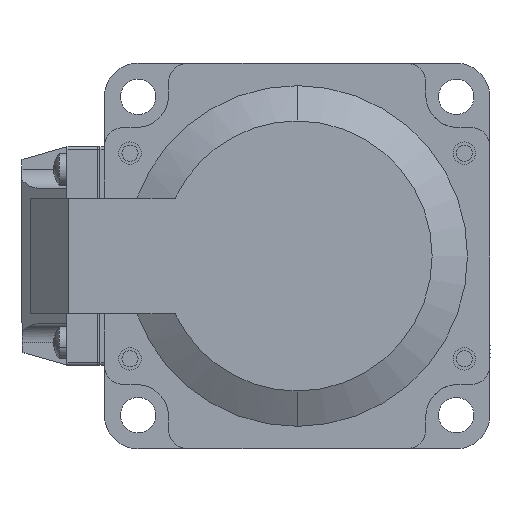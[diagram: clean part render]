
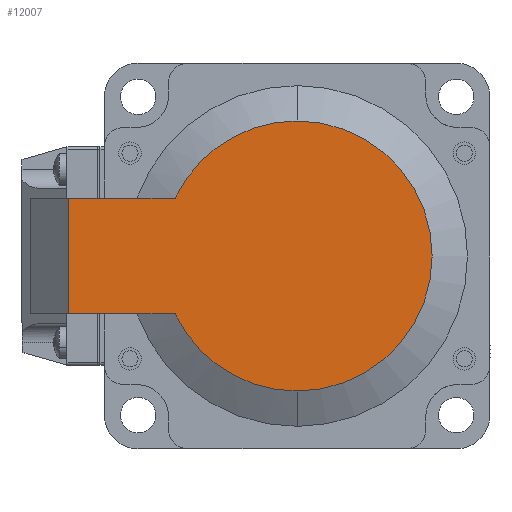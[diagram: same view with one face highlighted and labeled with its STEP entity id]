
A CAD part, front view. The second image highlights one B-rep face of the part: STEP entity #12007.
In plain terms, the highlighted planar face has unit normal (0, -1, 0).
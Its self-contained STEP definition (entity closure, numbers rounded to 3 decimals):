
#892 = VERTEX_POINT ( 'NONE', #18746 ) ;
#1022 = VERTEX_POINT ( 'NONE', #14315 ) ;
#1234 = ORIENTED_EDGE ( 'NONE', *, *, #11455, .F. ) ;
#1710 = LINE ( 'NONE', #2114, #11330 ) ;
#2114 = CARTESIAN_POINT ( 'NONE',  ( -35.583, -137., -9. ) ) ;
#2477 = EDGE_CURVE ( 'NONE', #892, #4592, #16687, .T. ) ;
#2687 = ORIENTED_EDGE ( 'NONE', *, *, #4685, .T. ) ;
#4592 = VERTEX_POINT ( 'NONE', #15537 ) ;
#4685 = EDGE_CURVE ( 'NONE', #7252, #5071, #5986, .T. ) ;
#4876 = CARTESIAN_POINT ( 'NONE',  ( 0., -137., 0. ) ) ;
#5001 = FACE_OUTER_BOUND ( 'NONE', #9481, .T. ) ;
#5071 = VERTEX_POINT ( 'NONE', #20434 ) ;
#5652 = VERTEX_POINT ( 'NONE', #15352 ) ;
#5986 = CIRCLE ( 'NONE', #8224, 21. ) ;
#6068 = EDGE_CURVE ( 'NONE', #5071, #892, #10578, .T. ) ;
#6071 = DIRECTION ( 'NONE',  ( 0., 0., -1. ) ) ;
#6366 = DIRECTION ( 'NONE',  ( 0., -1., 0. ) ) ;
#6771 = LINE ( 'NONE', #13056, #17166 ) ;
#6957 = DIRECTION ( 'NONE',  ( 0., 0., -1. ) ) ;
#7252 = VERTEX_POINT ( 'NONE', #9083 ) ;
#7384 = ORIENTED_EDGE ( 'NONE', *, *, #8680, .F. ) ;
#8000 = ORIENTED_EDGE ( 'NONE', *, *, #6068, .T. ) ;
#8224 = AXIS2_PLACEMENT_3D ( 'NONE', #9382, #16118, #6071 ) ;
#8233 = DIRECTION ( 'NONE',  ( 0., -1., 0. ) ) ;
#8269 = DIRECTION ( 'NONE',  ( 0., 0., -1. ) ) ;
#8680 = EDGE_CURVE ( 'NONE', #5652, #1022, #6771, .T. ) ;
#9083 = CARTESIAN_POINT ( 'NONE',  ( 0., -137., -21. ) ) ;
#9334 = CARTESIAN_POINT ( 'NONE',  ( -35.583, -137., 9. ) ) ;
#9382 = CARTESIAN_POINT ( 'NONE',  ( 0., -137., 0. ) ) ;
#9481 = EDGE_LOOP ( 'NONE', ( #7384, #10221, #2687, #8000, #18342, #1234 ) ) ;
#9769 = DIRECTION ( 'NONE',  ( -1., 0., 0. ) ) ;
#10221 = ORIENTED_EDGE ( 'NONE', *, *, #19170, .T. ) ;
#10449 = PLANE ( 'NONE',  #17486 ) ;
#10578 = CIRCLE ( 'NONE', #17017, 21. ) ;
#11330 = VECTOR ( 'NONE', #13545, 1000. ) ;
#11455 = EDGE_CURVE ( 'NONE', #1022, #4592, #1710, .T. ) ;
#12007 = ADVANCED_FACE ( 'NONE', ( #5001 ), #10449, .T. ) ;
#12295 = VECTOR ( 'NONE', #9769, 1000. ) ;
#13056 = CARTESIAN_POINT ( 'NONE',  ( -35.583, -137., -9. ) ) ;
#13545 = DIRECTION ( 'NONE',  ( 0., 0., 1. ) ) ;
#13760 = AXIS2_PLACEMENT_3D ( 'NONE', #16332, #6366, #8269 ) ;
#14315 = CARTESIAN_POINT ( 'NONE',  ( -35.583, -137., -9. ) ) ;
#15352 = CARTESIAN_POINT ( 'NONE',  ( -18.974, -137., -9. ) ) ;
#15537 = CARTESIAN_POINT ( 'NONE',  ( -35.583, -137., 9. ) ) ;
#16118 = DIRECTION ( 'NONE',  ( 0., -1., 0. ) ) ;
#16210 = DIRECTION ( 'NONE',  ( -1., 0., 0. ) ) ;
#16332 = CARTESIAN_POINT ( 'NONE',  ( 0., -137., 0. ) ) ;
#16370 = DIRECTION ( 'NONE',  ( 0., 0., -1. ) ) ;
#16687 = LINE ( 'NONE', #9334, #12295 ) ;
#17017 = AXIS2_PLACEMENT_3D ( 'NONE', #4876, #8233, #16370 ) ;
#17166 = VECTOR ( 'NONE', #16210, 1000. ) ;
#17324 = CIRCLE ( 'NONE', #13760, 21. ) ;
#17486 = AXIS2_PLACEMENT_3D ( 'NONE', #18619, #20295, #6957 ) ;
#18342 = ORIENTED_EDGE ( 'NONE', *, *, #2477, .T. ) ;
#18619 = CARTESIAN_POINT ( 'NONE',  ( 0., -137., -21. ) ) ;
#18746 = CARTESIAN_POINT ( 'NONE',  ( -18.974, -137., 9. ) ) ;
#19170 = EDGE_CURVE ( 'NONE', #5652, #7252, #17324, .T. ) ;
#20295 = DIRECTION ( 'NONE',  ( 0., -1., 0. ) ) ;
#20434 = CARTESIAN_POINT ( 'NONE',  ( 0., -137., 21. ) ) ;
